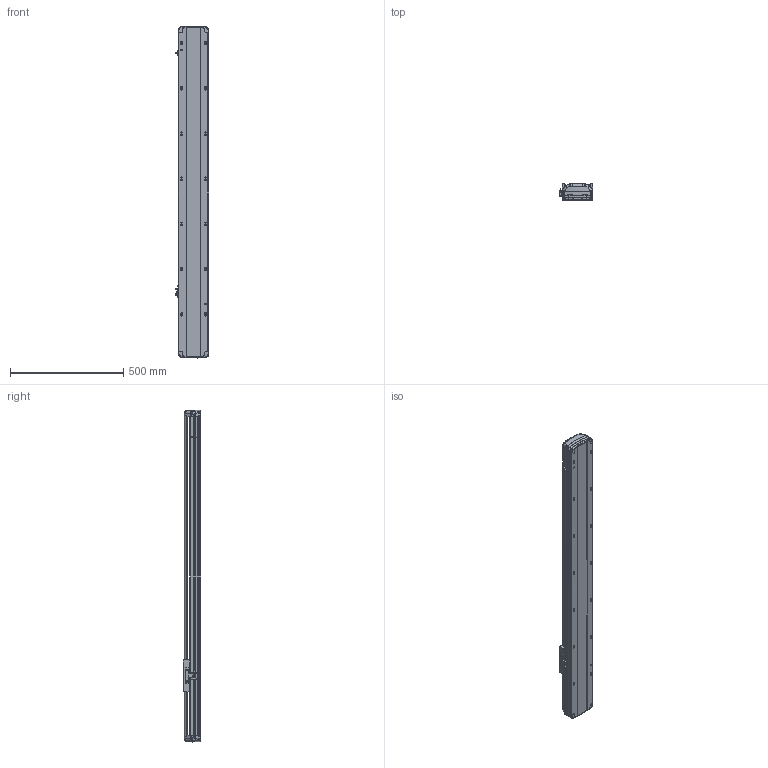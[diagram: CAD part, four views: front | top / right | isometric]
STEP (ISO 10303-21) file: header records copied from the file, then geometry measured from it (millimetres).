
FILE_DESCRIPTION (( 'STEP AP214' ), '1' );
FILE_NAME ('RTH14-XX-1050-B-M20B-C4.STEP', '2025-10-24T08:41:30', ( 'Microsoft' ), ( 'Microsoft' ), 'SwSTEP 2.0', 'SolidWorks 2018', '' );
FILE_SCHEMA (( 'AUTOMOTIVE_DESIGN' ));
Length unit declared in the file: millimetre
Products named in the file (7): N_RTH14-GY-001P^RTH14-XX-XX-B-M20B-C4; N_RTH13-L-012感应片（外置）^RTH14-XX-XX-B-M20B-C4; RTH14-XX-1050-B-M20B-C4; N_OMRON EE-SX672 传感器^RTH14-XX-XX-B-M20B-C4; N_RTH14-B-011PB菁釱^RTH14-XX-XX-B-M20B-C4; N_RTH14-B-007B奻裔^RTH14-XX-XX-B-M20B-C4; N_RTH14-R-004-SFSR16賑釱^RTH14-XX-XX-B-M20B-C4
Assembly tree (9 placements, depth 2):
  RTH14-XX-1050-B-M20B-C4
    N_RTH14-B-011PB菁釱^RTH14-XX-XX-B-M20B-C4
    N_RTH14-B-007B奻裔^RTH14-XX-XX-B-M20B-C4
    N_RTH13-L-012感应片（外置）^RTH14-XX-XX-B-M20B-C4
    N_OMRON EE-SX672 传感器^RTH14-XX-XX-B-M20B-C4  x3
    N_RTH14-R-004-SFSR16賑釱^RTH14-XX-XX-B-M20B-C4
    N_RTH14-GY-001P^RTH14-XX-XX-B-M20B-C4  x2
Bounding box: 148.5 x 78.02 x 1468.74 mm (x, y, z)
Volume: 5890831.5 mm3; surface area: 1346756.6 mm2
Topology: 9 solids, 9 shells, 1954 faces, 5512 edges, 3590 vertices
Faces by surface type: plane 987, cylinder 453, bspline 450, cone 56, torus 8
Entity records: 47988 total; most frequent: CARTESIAN_POINT 21194, ORIENTED_EDGE 6040, DIRECTION 4503, EDGE_CURVE 3020, VERTEX_POINT 1976, VECTOR 1683, LINE 1683, AXIS2_PLACEMENT_3D 1410
